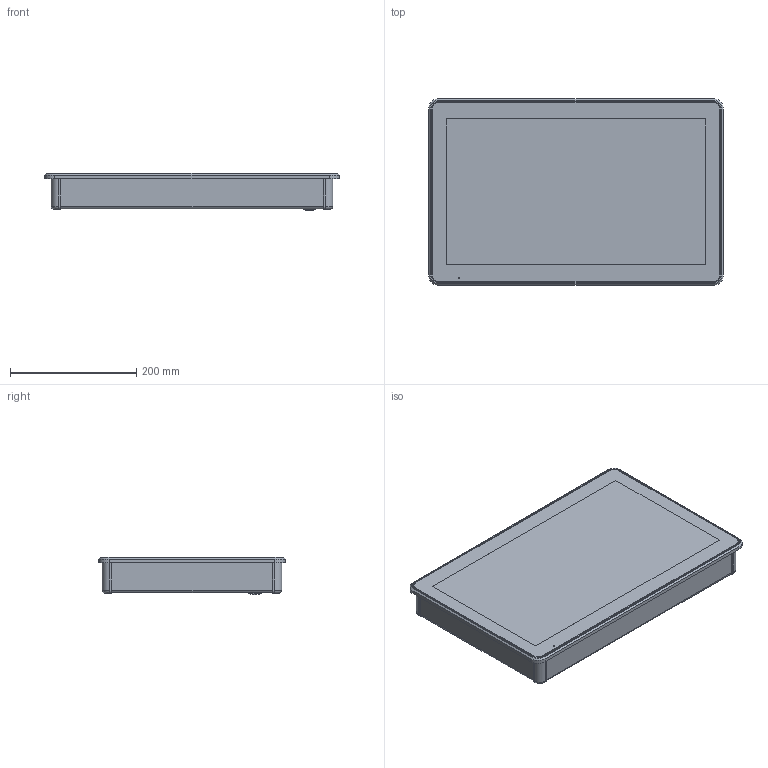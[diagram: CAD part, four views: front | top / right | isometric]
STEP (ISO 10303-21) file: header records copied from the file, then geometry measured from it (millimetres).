
FILE_DESCRIPTION(/* description */ (''),/* implementation_level */ '2;1');
FILE_NAME(/* name */ 'C:\SAPInventorWork\778-42988-00_EXTERN.stp',/* time_stamp */ '2024-06-19T07:43:27+02:00',/* author */ ('Aiple'),/* organization */ (''),/* preprocessor_version */ 'ST-DEVELOPER v18.1',/* originating_system */ 'Autodesk Inventor 2021',/* authorisation */ '');
FILE_SCHEMA (('AUTOMOTIVE_DESIGN { 1 0 10303 214 3 1 1 }'));
Products named in the file (1): 778-42988-00
Bounding box: 466.5 x 295.6 x 58.71 mm (x, y, z)
Volume: 6324309.6 mm3; surface area: 388889.7 mm2
Topology: 1 solids, 31 shells, 2767 faces, 7262 edges, 4769 vertices
Faces by surface type: plane 1424, cylinder 671, bspline 421, cone 240, torus 7, sphere 4
Full cylindrical faces by diameter (mm): 0.457 x1, 2.459 x8, 2.5 x2, 2.8 x2, 2.9 x2, 2.91 x2, 3 x10, 3.242 x6, 3.5 x10, 4 x2, 4.22 x8, 4.3 x8, 4.5 x8, 4.7 x2, 4.767 x6, 4.917 x4, 5 x3, 5.2 x1, 5.3 x2, 5.38 x6, 5.4 x6, 5.54 x8, 5.7 x8, 6 x14, 8.107 x4, 8.4 x8, 8.72 x4, 8.8 x4, 20 x1
Entity records: 96034 total; most frequent: CARTESIAN_POINT 27949, ORIENTED_EDGE 14512, DIRECTION 11620, EDGE_CURVE 7256, VERTEX_POINT 4769, LINE 4484, VECTOR 4484, AXIS2_PLACEMENT_3D 3568
